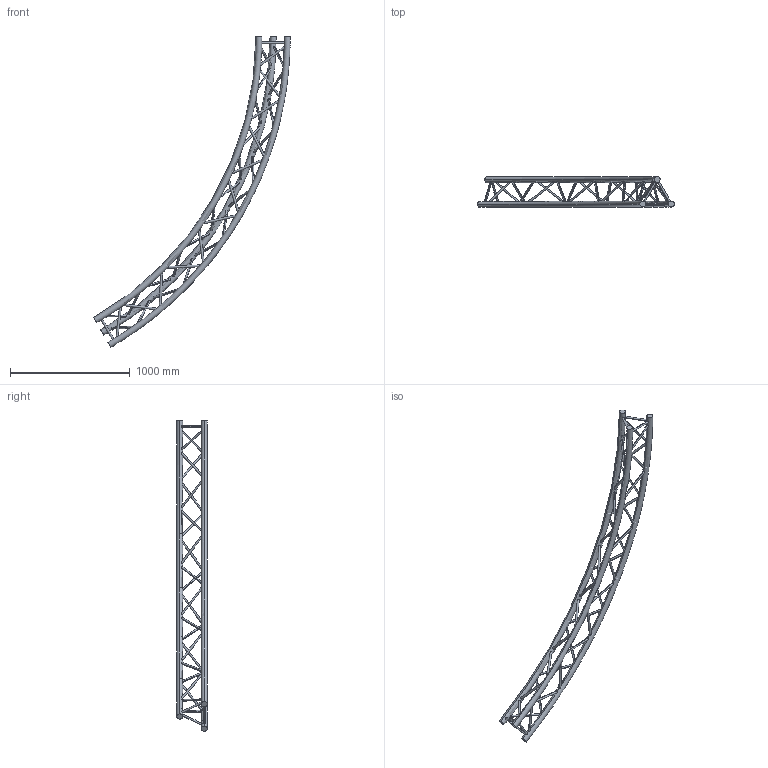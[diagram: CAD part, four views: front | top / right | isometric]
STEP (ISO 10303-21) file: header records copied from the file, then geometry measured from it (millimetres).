
FILE_DESCRIPTION (( 'STEP AP203' ), '1' );
FILE_NAME ('SXC29600PH.STEP', '2009-10-21T08:21:45', ( 'CEDIA' ), ( 'CEDIA INDUSTRIE' ), 'SwSTEP 2.0', 'SolidWorks 2009', '' );
FILE_SCHEMA (( 'CONFIG_CONTROL_DESIGN' ));
Length unit declared in the file: millimetre
Products named in the file (1): SXC29600PH
Bounding box: 1643.5 x 255.25 x 2598.08 mm (x, y, z)
Volume: 19768594.2 mm3; surface area: 1937408.4 mm2
Topology: 1 solids, 1 shells, 96 faces, 298 edges, 180 vertices
Faces by surface type: cylinder 84, torus 6, plane 6
Entity records: 10941 total; most frequent: CARTESIAN_POINT 8395, ORIENTED_EDGE 596, DIRECTION 370, EDGE_CURVE 298, VERTEX_POINT 180, B_SPLINE_CURVE_WITH_KNOTS 168, EDGE_LOOP 152, AXIS2_PLACEMENT_3D 143
